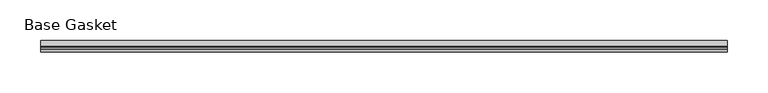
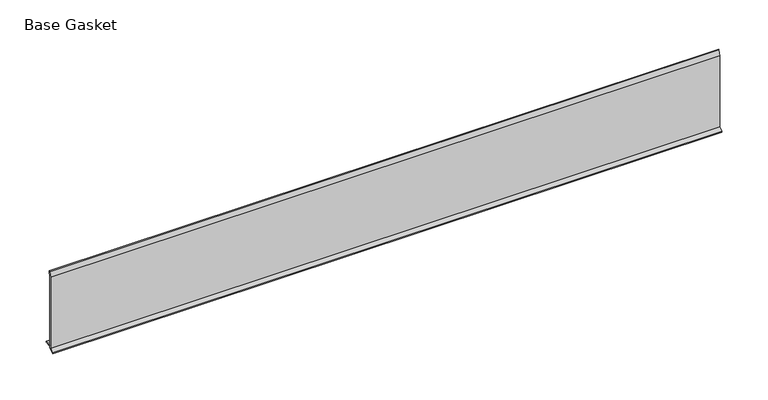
"""IFC4 building model written with IfcOpenShell, lengths in millimetres: furniture geometry, Gasket-Teknion-FHGB-AI_Healthcare-R2021 : Base Gasket."""

from ifc_helpers import new_model, si_unit, frame, origin, place, context, project, spatial, polyline, outline, extrude, source, transform, mapped, element, save


def base_gasket_aaf5a6a1(model_context):
    return source(origin(), model_context, "Body", "SweptSolid", [
        extrude(outline(polyline([(-3.7283812, 98.4568417), (-1.1891543, 104.587663), (-0.6755308, 105.2002997), (-0.6755308, 104.4162708), (-2.2043812, 98.4568417), (-2.2043812, 96.8693477), (-1.4106313, 96.8693477), (-1.4106313, 71.4693447), (-2.2043812, 71.4693447), (-2.2043812, 7.9398773), (6.2405171, 7.9398773), (6.2405171, 6.3818476), (-2.1334222, 6.3818476), (-2.2043812, 4.3498477), (-6.8281054, 0.3520979), (-7.8482342, 0.0), (-7.4222115, 0.6560174), (-3.7283812, 4.3498477), (-3.7283812, 98.4568417)])), frame((-1527.8982117, 0.0, 0.0), z_axis=(1.0, 0.0, 0.0), x_axis=(0.0, 1.0, 0.0)), (0.0, 0.0, 1.0), 838.2),
    ])


if __name__ == "__main__":
    model = new_model("IFC4")
    model_context = context("Model", 3, world=origin())
    ifc_project = project(units=[si_unit("LENGTHUNIT", "METRE", prefix="MILLI")], contexts=[model_context])
    site = spatial("IfcSite", under=ifc_project)
    building = spatial("IfcBuilding", under=site)
    placement = place(None, origin())
    base_gasket_shape = base_gasket_aaf5a6a1(model_context)
    element("IfcFurniture", 1, ObjectType="Gasket-Teknion-FHGB-AI_Healthcare-R2021 : Base Gasket", at=placement, inside=building, context=model_context, shape_type="MappedRepresentation", body=[
        mapped(base_gasket_shape, transform((0.0, 0.0, 0.0), x_axis=(1.0, 0.0, 0.0), y_axis=(0.0, 1.0, 0.0), z_axis=(0.0, 0.0, 1.0))),
    ])
    save(model, "model.ifc")
